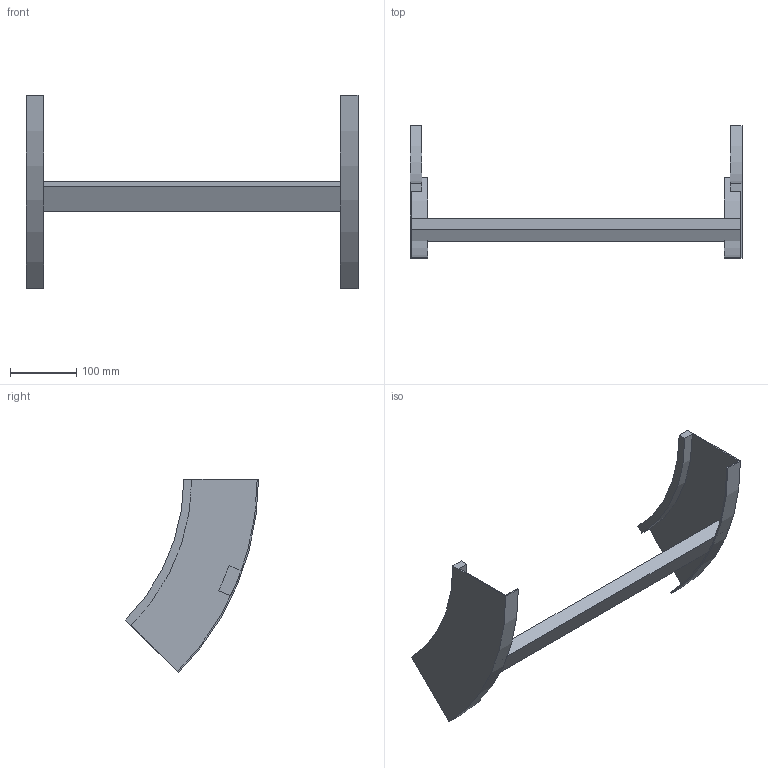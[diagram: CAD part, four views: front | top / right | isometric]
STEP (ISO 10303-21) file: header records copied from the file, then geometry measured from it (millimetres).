
FILE_DESCRIPTION (( 'STEP AP214' ), '1' );
FILE_NAME ('B2X31B3J500XX.step', '2025-03-20T10:07:53', ( '' ), ( '' ), 'SwSTEP 2.0', 'SolidWorks 2023', '' );
FILE_SCHEMA (( 'AUTOMOTIVE_DESIGN' ));
Length unit declared in the file: millimetre
Products named in the file (3): B2X31B3J500XX; TRAVERSINO_500; B2_LONGH.SALITA_45°_H112.5_R300
Assembly tree (3 placements, depth 2):
  B2X31B3J500XX
    B2_LONGH.SALITA_45°_H112.5_R300  x2
    TRAVERSINO_500
Bounding box: 500 x 200.37 x 291.68 mm (x, y, z)
Volume: 652275.7 mm3; surface area: 239351.9 mm2
Topology: 3 solids, 3 shells, 26 faces, 60 edges, 40 vertices
Faces by surface type: plane 18, cylinder 8
Entity records: 544 total; most frequent: DIRECTION 88, CARTESIAN_POINT 82, ORIENTED_EDGE 72, EDGE_CURVE 36, AXIS2_PLACEMENT_3D 30, VECTOR 28, LINE 28, VERTEX_POINT 24
